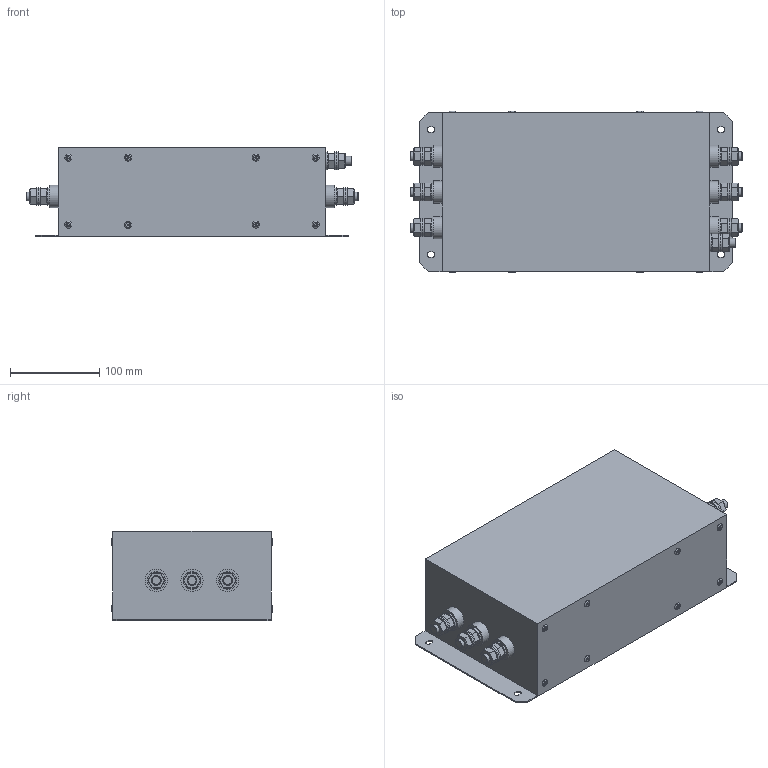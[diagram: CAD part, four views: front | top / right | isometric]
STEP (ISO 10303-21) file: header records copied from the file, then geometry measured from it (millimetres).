
FILE_DESCRIPTION(('STEP AP203'), '1');
FILE_NAME('IEF-90_180-4 捘', '', ('UNSPECIFIED'), ('UNSPECIFIED'), 'C3D Converter', 'C3D Toolkit', '');
FILE_SCHEMA(('CONFIG_CONTROL_DESIGN'));
Length unit declared in the file: millimetre
Products named in the file (6): IEF-90_180-4; IEF-90/180-4
Assembly tree (58 placements, depth 2):
  IEF-90_180-4
    IEF-90/180-4
    IEF-90_180-4  x6
    IEF-90/180-4  x21
    IEF-90/180-4  x14
    IEF-90/180-4  x16
Bounding box: 372 x 180.6 x 100 mm (x, y, z)
Volume: 5426495.9 mm3; surface area: 270200.2 mm2
Topology: 58 solids, 58 shells, 577 faces, 1111 edges, 673 vertices
Faces by surface type: plane 411, cylinder 115, cone 35, torus 16
Full cylindrical faces by diameter (mm): 2 x16, 3 x16, 10 x48, 20 x21, 25 x6
Entity records: 4359 total; most frequent: DIRECTION 514, CARTESIAN_POINT 431, ORIENTED_EDGE 330, AXIS2_PLACEMENT_3D 202, EDGE_CURVE 165, EDGE_LOOP 136, DATE_AND_TIME 128, CALENDAR_DATE 128
